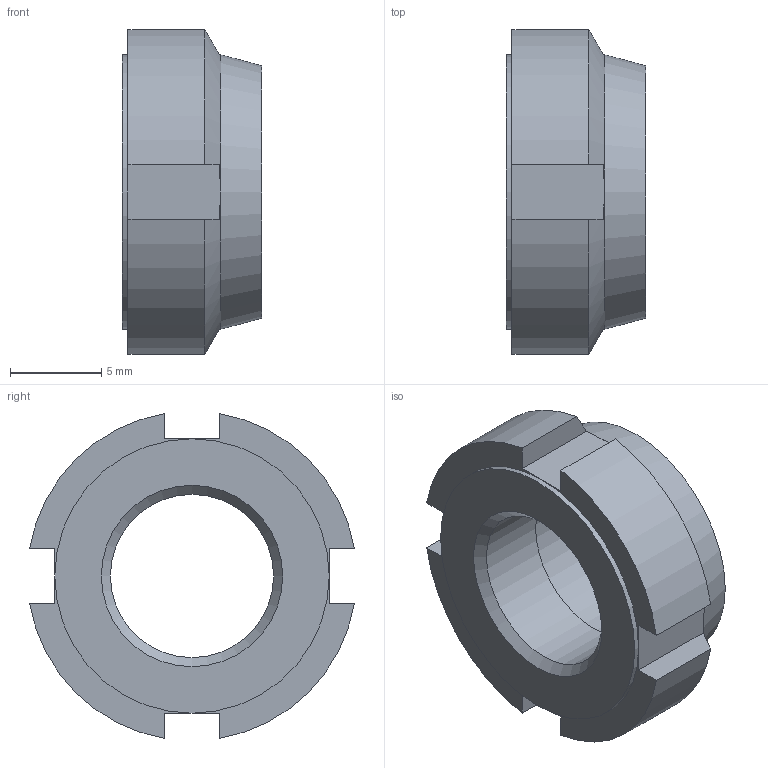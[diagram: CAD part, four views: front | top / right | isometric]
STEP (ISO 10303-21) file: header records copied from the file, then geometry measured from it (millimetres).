
FILE_DESCRIPTION( ( 'STEP AP203' ), '1' );
FILE_NAME( 'C:/Temp/Ganter_Step_05_03_2020/data/3_2/gn1804_1/Slotted locknut self-locking GN 1804.1-M10x1.stp', '2020-03-13T05:25:12', ( 'License CC BY-ND 4.0' ), ( 'CADENAS' ), ' ', 'PARTsolutions', ' ' );
FILE_SCHEMA( ( 'CONFIG_CONTROL_DESIGN' ) );
Length unit declared in the file: millimetre
Products named in the file (1): _Slotted locknut self-locking GN 1804.1-M10x1
Bounding box: 7.6 x 17.75 x 17.75 mm (x, y, z)
Volume: 1069.2 mm3; surface area: 961.8 mm2
Topology: 1 solids, 1 shells, 34 faces, 79 edges, 49 vertices
Faces by surface type: plane 20, cylinder 8, cone 6
Full cylindrical faces by diameter (mm): 8.917 x1, 9.4 x1, 11 x1, 15 x1
Entity records: 994 total; most frequent: CARTESIAN_POINT 205, DIRECTION 152, ORIENTED_EDGE 146, EDGE_CURVE 73, AXIS2_PLACEMENT_3D 60, VERTEX_POINT 49, EDGE_LOOP 44, FACE_OUTER_BOUND 38
